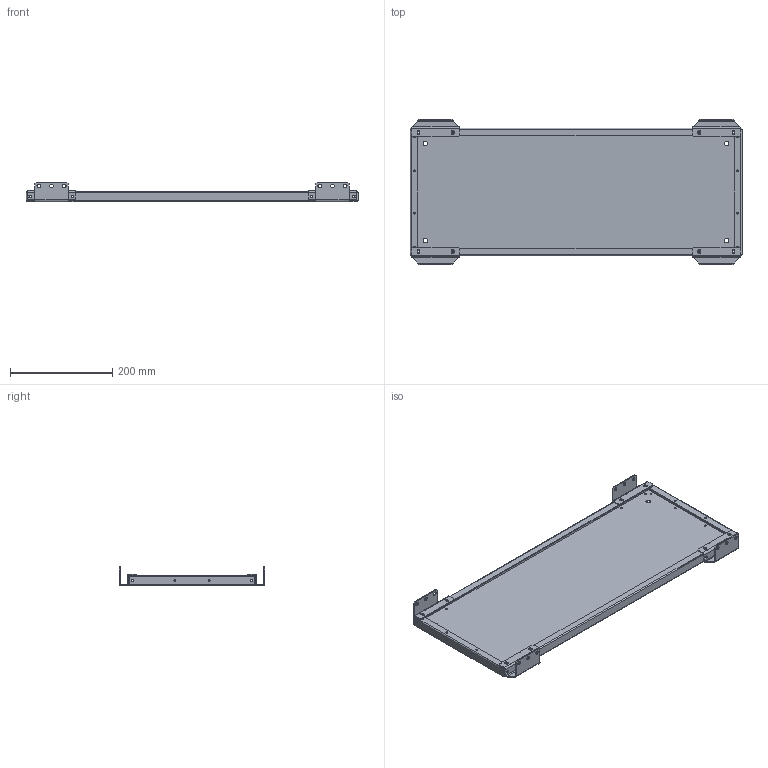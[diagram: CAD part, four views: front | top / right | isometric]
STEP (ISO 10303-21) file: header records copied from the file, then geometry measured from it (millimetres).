
FILE_DESCRIPTION (( 'STEP AP203' ), '1' );
FILE_NAME ('MP 65.25 M Ïàíåëü ìîíòàæíàÿ ñåêöèîííàÿ (ãîðèçîíòàëüíîå êðåïëåíèå).STEP', '2021-04-06T07:13:53', ( '' ), ( '' ), 'SwSTEP 2.0', 'SolidWorks 2018', '' );
FILE_SCHEMA (( 'CONFIG_CONTROL_DESIGN' ));
Length unit declared in the file: millimetre
Products named in the file (1): MP 65.25 M Ïàíåëü ìîíòàæíàÿ ñåêöèîííàÿ (ãîðèçîíòàëüíîå êðåïëåíèå)
Bounding box: 650 x 285 x 37.75 mm (x, y, z)
Volume: 482788.6 mm3; surface area: 491290.9 mm2
Topology: 5 solids, 5 shells, 388 faces, 1016 edges, 632 vertices
Faces by surface type: cylinder 196, plane 168, bspline 16, sphere 8
Entity records: 12713 total; most frequent: CARTESIAN_POINT 2749, DIRECTION 2050, ORIENTED_EDGE 2016, EDGE_CURVE 1008, AXIS2_PLACEMENT_3D 733, VERTEX_POINT 632, LINE 584, VECTOR 584
